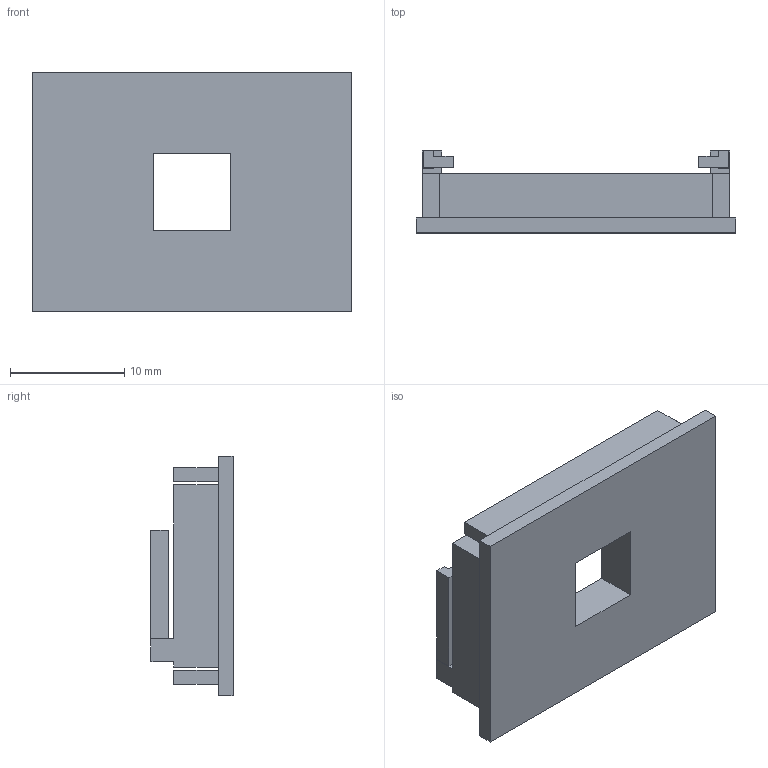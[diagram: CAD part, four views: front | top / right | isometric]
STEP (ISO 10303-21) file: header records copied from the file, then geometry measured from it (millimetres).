
FILE_DESCRIPTION(('Open CASCADE Model'),'2;1');
FILE_NAME('Open CASCADE Shape Model','2026-11-10T19:16:45',('Author'),( 'Open CASCADE'),'Open CASCADE STEP processor 7.8','Open CASCADE 7.8' ,'Unknown');
FILE_SCHEMA(('AUTOMOTIVE_DESIGN { 1 0 10303 214 1 1 1 1 }'));
Length unit declared in the file: millimetre
Products named in the file (1): Open CASCADE STEP translator 7.8 7
Bounding box: 28 x 7.2 x 21 mm (x, y, z)
Volume: 1328.8 mm3; surface area: 2247.2 mm2
Topology: 1 solids, 1 shells, 67 faces, 174 edges, 116 vertices
Faces by surface type: plane 67
Entity records: 4212 total; most frequent: CARTESIAN_POINT 778, DIRECTION 586, LINE 450, VECTOR 450, ORIENTED_EDGE 348, PCURVE 348, DEFINITIONAL_REPRESENTATION 348, EDGE_CURVE 174
